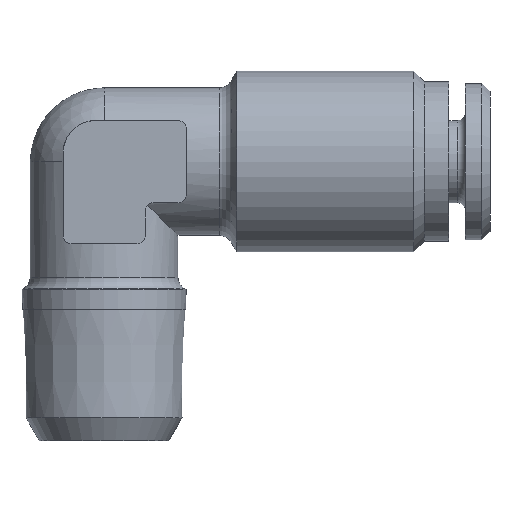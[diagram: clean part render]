
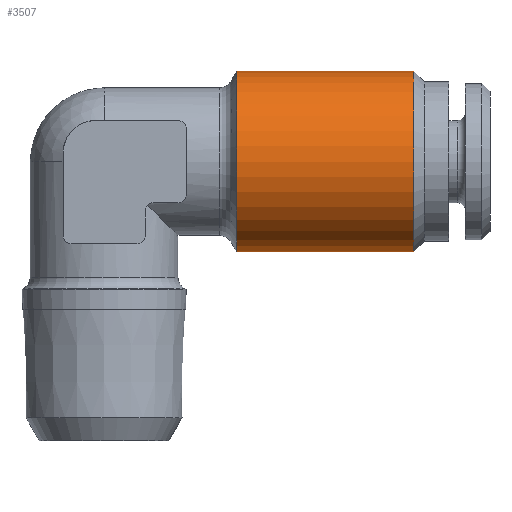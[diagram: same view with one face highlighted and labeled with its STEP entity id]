
A CAD part, front view. The second image highlights one B-rep face of the part: STEP entity #3507.
In plain terms, the highlighted cylindrical face has radius 5.5 mm (diameter 11 mm), a full revolution.
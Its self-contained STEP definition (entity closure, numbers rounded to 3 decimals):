
#1620=ORIENTED_EDGE('',*,*,#1971,.T.);
#1621=ORIENTED_EDGE('',*,*,#1972,.F.);
#1756=CIRCLE('',#3385,5.5);
#1757=CIRCLE('',#3387,5.5);
#1852=VERTEX_POINT('',#3070);
#1853=VERTEX_POINT('',#3073);
#1971=EDGE_CURVE('',#1852,#1852,#1756,.T.);
#1972=EDGE_CURVE('',#1853,#1853,#1757,.T.);
#2069=EDGE_LOOP('',(#1620));
#2070=EDGE_LOOP('',(#1621));
#2181=FACE_BOUND('',#2069,.T.);
#2182=FACE_BOUND('',#2070,.T.);
#2429=DIRECTION('',(1.,0.,0.));
#2430=DIRECTION('',(0.,5.5,0.));
#2431=DIRECTION('',(-1.,0.,0.));
#2432=DIRECTION('',(0.,1.,0.));
#2433=DIRECTION('',(1.,0.,0.));
#2434=DIRECTION('',(0.,5.5,0.));
#3070=CARTESIAN_POINT('',(51.027,86.895,0.));
#3071=CARTESIAN_POINT('',(51.027,81.395,0.));
#3072=CARTESIAN_POINT('',(61.8,81.395,0.));
#3073=CARTESIAN_POINT('',(61.8,86.895,0.));
#3074=CARTESIAN_POINT('',(61.8,81.395,0.));
#3385=AXIS2_PLACEMENT_3D('',#3071,#2429,#2430);
#3386=AXIS2_PLACEMENT_3D('',#3072,#2431,#2432);
#3387=AXIS2_PLACEMENT_3D('',#3074,#2433,#2434);
#3456=CYLINDRICAL_SURFACE('',#3386,5.5);
#3507=ADVANCED_FACE('',(#2181,#2182),#3456,.T.);
